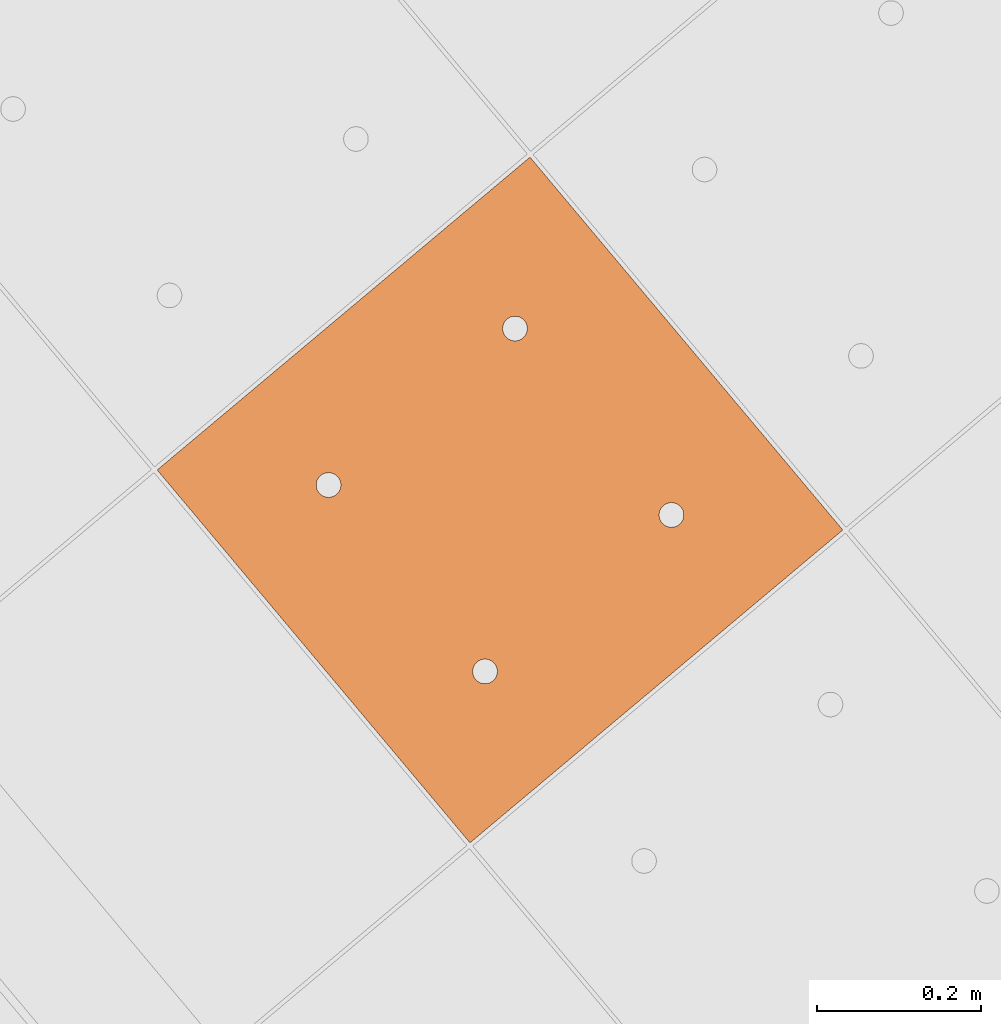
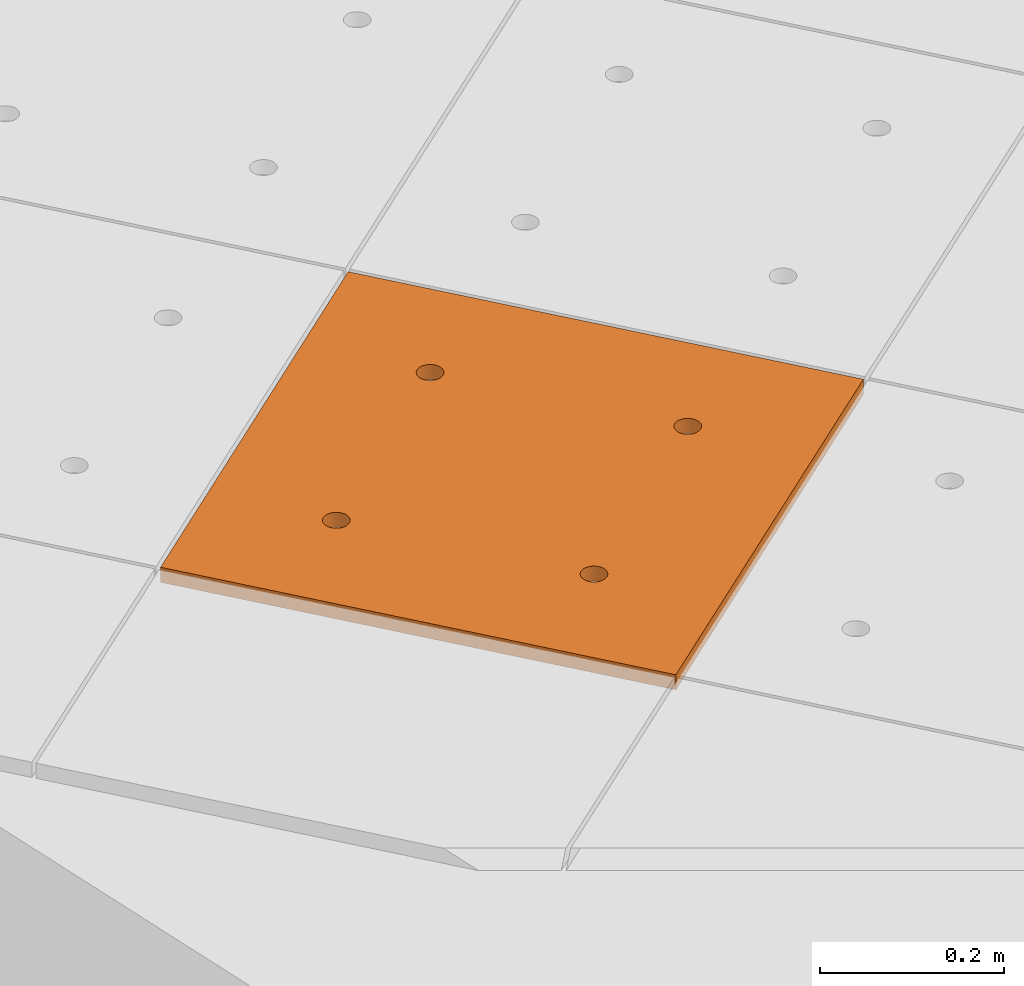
# One storey, part 139 of 338: 1 proxy, 1 element without a shape of its own.
"""IFC2X3 building model written with IfcOpenShell, lengths in millimetres."""

from ifc_helpers import new_model, entity, si_unit, converted_unit, derived_unit, money_unit, direction, frame, origin_with_axes, place, context, subcontext, project, spatial, faceted_brep, source, transform, mapped, material, type_object, type_shapes, element, aggregate, save


model = new_model("IFC2X3")

# Units and contexts
model_context = context("Model", 3, precision=0.01, world=origin_with_axes(), true_north=direction((0.0, 1.0)))
plan_context = context("Plan", 3, precision=0.01, world=origin_with_axes(), true_north=direction((0.0, 1.0)))
body_context = subcontext(model_context, "Body", "Model", "MODEL_VIEW")
ifc_project = project(units=[si_unit("LENGTHUNIT", "METRE", prefix="MILLI"), si_unit("AREAUNIT", "SQUARE_METRE"), si_unit("VOLUMEUNIT", "CUBIC_METRE"), converted_unit("PLANEANGLEUNIT", "DEGREE", entity("IfcPlaneAngleMeasure", 0.0174532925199), si_unit("PLANEANGLEUNIT", "RADIAN"), dimensions=[0, 0, 0, 0, 0, 0, 0]), money_unit("EUR"), converted_unit("TIMEUNIT", "Year", entity("IfcTimeMeasure", 31556926.0), si_unit("TIMEUNIT", "SECOND"), dimensions=[0, 0, 1, 0, 0, 0, 0]), si_unit("MASSUNIT", "GRAM", prefix="KILO"), si_unit("THERMODYNAMICTEMPERATUREUNIT", "DEGREE_CELSIUS"), si_unit("LUMINOUSINTENSITYUNIT", "LUMEN"), si_unit("ENERGYUNIT", "JOULE", prefix="MEGA"), derived_unit("THERMALCONDUCTANCEUNIT", [(si_unit("POWERUNIT", "WATT"), 1), (si_unit("LENGTHUNIT", "METRE"), -1), (si_unit("THERMODYNAMICTEMPERATUREUNIT", "KELVIN"), -1)]), derived_unit("SPECIFICHEATCAPACITYUNIT", [(si_unit("ENERGYUNIT", "JOULE"), 1), (si_unit("MASSUNIT", "GRAM", prefix="KILO"), -1), (si_unit("THERMODYNAMICTEMPERATUREUNIT", "KELVIN"), -1)]), derived_unit("MASSDENSITYUNIT", [(si_unit("MASSUNIT", "GRAM", prefix="KILO"), 1), (si_unit("VOLUMEUNIT", "CUBIC_METRE"), -1)])], contexts=[model_context, plan_context])

# Site, building, storey
site_placement = place(None, origin_with_axes())
site = spatial("IfcSite", under=ifc_project, at=site_placement, Name="Fortuinstraat Woensdrecht", CompositionType="ELEMENT")
building_placement = place(site_placement, origin_with_axes())
building = spatial("IfcBuilding", under=site, at=building_placement, Name="IKC Fortuna", CompositionType="ELEMENT")
storey_placement = place(building_placement, origin_with_axes())
storey = spatial("IfcBuildingStorey", under=building, at=storey_placement, Name="00 begane grond", CompositionType="ELEMENT", Elevation=0.0)

# Covering, proxy
covering_type = type_object("IfcCoveringType", Name="Curtain Wall Type", PredefinedType="CEILING")
covering_placement = place(storey_placement, frame((9775.85169731, -1002.28242867, 4660.0), z_axis=(0.0, 0.0, 1.0), x_axis=(1.0, 0.0, 0.0)))
covering = element("IfcCovering", 1, at=covering_placement, inside=storey, type_object=covering_type, Name="45_Plafondafwerking_P01", PredefinedType="CEILING")
ifc_material = material(Name="Gipsplaat")
building_element_proxy_type = type_object("IfcBuildingElementProxyType", Name="Main Panel 600 x 600 x 20", PredefinedType="NOTDEFINED")
shared_shape = source(origin_with_axes(), body_context, "Body", "Brep", [
    faceted_brep([(2.49999999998, 2.49999999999, -10.0), (300.0, 2.49999999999, -10.0), (300.0, 2.49999999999, 10.0), (2.49999999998, 2.49999999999, 10.0), (2.49999999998, 300.0, -10.0), (2.49999999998, 597.5, -10.0), (300.0, 597.5, -10.0), (597.5, 597.5, -10.0), (597.5, 300.0, -10.0), (597.5, 2.49999999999, -10.0), (166.25, 450.06232995, -10.0), (165.79423259, 452.64711538, -10.0), (164.896546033, 455.11348892, -10.0), (163.58421608, 457.38651108, -10.0), (161.897117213, 459.39711721, -10.0), (159.886511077, 461.08421608, -10.0), (157.613488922, 462.39654603, -10.0), (155.147115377, 463.29423259, -10.0), (152.562329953, 463.75, -10.0), (149.937670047, 463.75, -10.0), (147.352884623, 463.29423259, -10.0), (144.886511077, 462.39654603, -10.0), (142.613488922, 461.08421608, -10.0), (140.602882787, 459.39711721, -10.0), (138.91578392, 457.38651108, -10.0), (137.603453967, 455.11348892, -10.0), (136.705767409, 452.64711538, -10.0), (136.25, 450.06232995, -10.0), (136.25, 448.75, -10.0), (136.25, 447.43767005, -10.0), (136.705767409, 444.85288462, -10.0), (137.603453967, 442.38651108, -10.0), (138.91578392, 440.11348892, -10.0), (140.602882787, 438.10288279, -10.0), (142.613488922, 436.41578392, -10.0), (144.886511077, 435.10345397, -10.0), (147.352884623, 434.20576741, -10.0), (149.937670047, 433.75, -10.0), (152.562329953, 433.75, -10.0), (155.147115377, 434.20576741, -10.0), (157.613488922, 435.10345397, -10.0), (159.886511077, 436.41578392, -10.0), (161.897117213, 438.10288279, -10.0), (163.58421608, 440.11348892, -10.0), (164.896546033, 442.38651108, -10.0), (165.79423259, 444.85288462, -10.0), (166.25, 447.43767005, -10.0), (463.75, 450.06232995, -10.0), (463.29423259, 452.64711538, -10.0), (462.396546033, 455.11348892, -10.0), (461.08421608, 457.38651108, -10.0), (459.397117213, 459.39711721, -10.0), (457.386511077, 461.08421608, -10.0), (455.113488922, 462.39654603, -10.0), (452.647115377, 463.29423259, -10.0), (450.062329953, 463.75, -10.0), (447.437670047, 463.75, -10.0), (444.852884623, 463.29423259, -10.0), (442.386511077, 462.39654603, -10.0), (440.113488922, 461.08421608, -10.0), (438.102882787, 459.39711721, -10.0), (436.41578392, 457.38651108, -10.0), (435.103453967, 455.11348892, -10.0), (434.205767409, 452.64711538, -10.0), (433.75, 450.06232995, -10.0), (433.75, 448.75, -10.0), (433.75, 447.43767005, -10.0), (434.205767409, 444.85288462, -10.0), (435.103453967, 442.38651108, -10.0), (436.41578392, 440.11348892, -10.0), (438.102882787, 438.10288279, -10.0), (440.113488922, 436.41578392, -10.0), (442.386511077, 435.10345397, -10.0), (444.852884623, 434.20576741, -10.0), (447.437670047, 433.75, -10.0), (450.062329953, 433.75, -10.0), (452.647115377, 434.20576741, -10.0), (455.113488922, 435.10345397, -10.0), (457.386511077, 436.41578392, -10.0), (459.397117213, 438.10288279, -10.0), (461.08421608, 440.11348892, -10.0), (462.396546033, 442.38651108, -10.0), (463.29423259, 444.85288462, -10.0), (463.75, 447.43767005, -10.0), (463.75, 152.56232995, -10.0), (463.29423259, 155.14711538, -10.0), (462.396546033, 157.61348892, -10.0), (461.08421608, 159.88651108, -10.0), (459.397117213, 161.89711721, -10.0), (457.386511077, 163.58421608, -10.0), (455.113488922, 164.89654603, -10.0), (452.647115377, 165.79423259, -10.0), (450.062329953, 166.25, -10.0), (447.437670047, 166.25, -10.0), (444.852884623, 165.79423259, -10.0), (442.386511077, 164.89654603, -10.0), (440.113488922, 163.58421608, -10.0), (438.102882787, 161.89711721, -10.0), (436.41578392, 159.88651108, -10.0), (435.103453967, 157.61348892, -10.0), (434.205767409, 155.14711538, -10.0), (433.75, 152.56232995, -10.0), (433.75, 151.25, -10.0), (433.75, 149.93767005, -10.0), (434.205767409, 147.35288462, -10.0), (435.103453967, 144.88651108, -10.0), (436.41578392, 142.61348892, -10.0), (438.102882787, 140.60288279, -10.0), (440.113488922, 138.91578392, -10.0), (442.386511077, 137.60345397, -10.0), (444.852884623, 136.70576741, -10.0), (447.437670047, 136.25, -10.0), (450.062329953, 136.25, -10.0), (452.647115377, 136.70576741, -10.0), (455.113488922, 137.60345397, -10.0), (457.386511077, 138.91578392, -10.0), (459.397117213, 140.60288279, -10.0), (461.08421608, 142.61348892, -10.0), (462.396546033, 144.88651108, -10.0), (463.29423259, 147.35288462, -10.0), (463.75, 149.93767005, -10.0), (166.25, 152.56232995, -10.0), (165.79423259, 155.14711538, -10.0), (164.896546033, 157.61348892, -10.0), (163.58421608, 159.88651108, -10.0), (161.897117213, 161.89711721, -10.0), (159.886511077, 163.58421608, -10.0), (157.613488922, 164.89654603, -10.0), (155.147115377, 165.79423259, -10.0), (152.562329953, 166.25, -10.0), (149.937670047, 166.25, -10.0), (147.352884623, 165.79423259, -10.0), (144.886511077, 164.89654603, -10.0), (142.613488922, 163.58421608, -10.0), (140.602882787, 161.89711721, -10.0), (138.91578392, 159.88651108, -10.0), (137.603453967, 157.61348892, -10.0), (136.705767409, 155.14711538, -10.0), (136.25, 152.56232995, -10.0), (136.25, 151.25, -10.0), (136.25, 149.93767005, -10.0), (136.705767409, 147.35288462, -10.0), (137.603453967, 144.88651108, -10.0), (138.91578392, 142.61348892, -10.0), (140.602882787, 140.60288279, -10.0), (142.613488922, 138.91578392, -10.0), (144.886511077, 137.60345397, -10.0), (147.352884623, 136.70576741, -10.0), (149.937670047, 136.25, -10.0), (152.562329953, 136.25, -10.0), (155.147115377, 136.70576741, -10.0), (157.613488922, 137.60345397, -10.0), (159.886511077, 138.91578392, -10.0), (161.897117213, 140.60288279, -10.0), (163.58421608, 142.61348892, -10.0), (164.896546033, 144.88651108, -10.0), (165.79423259, 147.35288462, -10.0), (166.25, 149.93767005, -10.0), (597.5, 2.49999999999, 10.0), (597.5, 300.0, 10.0), (597.5, 597.5, 10.0), (300.0, 597.5, 10.0), (2.49999999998, 597.5, 10.0), (2.49999999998, 300.0, 10.0), (166.25, 450.06232995, 10.0), (166.25, 447.43767005, 10.0), (165.79423259, 444.85288462, 10.0), (164.896546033, 442.38651108, 10.0), (163.58421608, 440.11348892, 10.0), (161.897117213, 438.10288279, 10.0), (159.886511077, 436.41578392, 10.0), (157.613488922, 435.10345397, 10.0), (155.147115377, 434.20576741, 10.0), (152.562329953, 433.75, 10.0), (149.937670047, 433.75, 10.0), (147.352884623, 434.20576741, 10.0), (144.886511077, 435.10345397, 10.0), (142.613488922, 436.41578392, 10.0), (140.602882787, 438.10288279, 10.0), (138.91578392, 440.11348892, 10.0), (137.603453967, 442.38651108, 10.0), (136.705767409, 444.85288462, 10.0), (136.25, 447.43767005, 10.0), (136.25, 448.75, 10.0), (136.25, 450.06232995, 10.0), (136.705767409, 452.64711538, 10.0), (137.603453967, 455.11348892, 10.0), (138.91578392, 457.38651108, 10.0), (140.602882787, 459.39711721, 10.0), (142.613488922, 461.08421608, 10.0), (144.886511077, 462.39654603, 10.0), (147.352884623, 463.29423259, 10.0), (149.937670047, 463.75, 10.0), (152.562329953, 463.75, 10.0), (155.147115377, 463.29423259, 10.0), (157.613488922, 462.39654603, 10.0), (159.886511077, 461.08421608, 10.0), (161.897117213, 459.39711721, 10.0), (163.58421608, 457.38651108, 10.0), (164.896546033, 455.11348892, 10.0), (165.79423259, 452.64711538, 10.0), (463.75, 450.06232995, 10.0), (463.75, 447.43767005, 10.0), (463.29423259, 444.85288462, 10.0), (462.396546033, 442.38651108, 10.0), (461.08421608, 440.11348892, 10.0), (459.397117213, 438.10288279, 10.0), (457.386511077, 436.41578392, 10.0), (455.113488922, 435.10345397, 10.0), (452.647115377, 434.20576741, 10.0), (450.062329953, 433.75, 10.0), (447.437670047, 433.75, 10.0), (444.852884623, 434.20576741, 10.0), (442.386511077, 435.10345397, 10.0), (440.113488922, 436.41578392, 10.0), (438.102882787, 438.10288279, 10.0), (436.41578392, 440.11348892, 10.0), (435.103453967, 442.38651108, 10.0), (434.205767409, 444.85288462, 10.0), (433.75, 447.43767005, 10.0), (433.75, 448.75, 10.0), (433.75, 450.06232995, 10.0), (434.205767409, 452.64711538, 10.0), (435.103453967, 455.11348892, 10.0), (436.41578392, 457.38651108, 10.0), (438.102882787, 459.39711721, 10.0), (440.113488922, 461.08421608, 10.0), (442.386511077, 462.39654603, 10.0), (444.852884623, 463.29423259, 10.0), (447.437670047, 463.75, 10.0), (450.062329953, 463.75, 10.0), (452.647115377, 463.29423259, 10.0), (455.113488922, 462.39654603, 10.0), (457.386511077, 461.08421608, 10.0), (459.397117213, 459.39711721, 10.0), (461.08421608, 457.38651108, 10.0), (462.396546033, 455.11348892, 10.0), (463.29423259, 452.64711538, 10.0), (463.75, 152.56232995, 10.0), (463.75, 149.93767005, 10.0), (463.29423259, 147.35288462, 10.0), (462.396546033, 144.88651108, 10.0), (461.08421608, 142.61348892, 10.0), (459.397117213, 140.60288279, 10.0), (457.386511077, 138.91578392, 10.0), (455.113488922, 137.60345397, 10.0), (452.647115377, 136.70576741, 10.0), (450.062329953, 136.25, 10.0), (447.437670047, 136.25, 10.0), (444.852884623, 136.70576741, 10.0), (442.386511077, 137.60345397, 10.0), (440.113488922, 138.91578392, 10.0), (438.102882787, 140.60288279, 10.0), (436.41578392, 142.61348892, 10.0), (435.103453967, 144.88651108, 10.0), (434.205767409, 147.35288462, 10.0), (433.75, 149.93767005, 10.0), (433.75, 151.25, 10.0), (433.75, 152.56232995, 10.0), (434.205767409, 155.14711538, 10.0), (435.103453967, 157.61348892, 10.0), (436.41578392, 159.88651108, 10.0), (438.102882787, 161.89711721, 10.0), (440.113488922, 163.58421608, 10.0), (442.386511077, 164.89654603, 10.0), (444.852884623, 165.79423259, 10.0), (447.437670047, 166.25, 10.0), (450.062329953, 166.25, 10.0), (452.647115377, 165.79423259, 10.0), (455.113488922, 164.89654603, 10.0), (457.386511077, 163.58421608, 10.0), (459.397117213, 161.89711721, 10.0), (461.08421608, 159.88651108, 10.0), (462.396546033, 157.61348892, 10.0), (463.29423259, 155.14711538, 10.0), (166.25, 152.56232995, 10.0), (166.25, 149.93767005, 10.0), (165.79423259, 147.35288462, 10.0), (164.896546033, 144.88651108, 10.0), (163.58421608, 142.61348892, 10.0), (161.897117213, 140.60288279, 10.0), (159.886511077, 138.91578392, 10.0), (157.613488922, 137.60345397, 10.0), (155.147115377, 136.70576741, 10.0), (152.562329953, 136.25, 10.0), (149.937670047, 136.25, 10.0), (147.352884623, 136.70576741, 10.0), (144.886511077, 137.60345397, 10.0), (142.613488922, 138.91578392, 10.0), (140.602882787, 140.60288279, 10.0), (138.91578392, 142.61348892, 10.0), (137.603453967, 144.88651108, 10.0), (136.705767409, 147.35288462, 10.0), (136.25, 149.93767005, 10.0), (136.25, 151.25, 10.0), (136.25, 152.56232995, 10.0), (136.705767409, 155.14711538, 10.0), (137.603453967, 157.61348892, 10.0), (138.91578392, 159.88651108, 10.0), (140.602882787, 161.89711721, 10.0), (142.613488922, 163.58421608, 10.0), (144.886511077, 164.89654603, 10.0), (147.352884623, 165.79423259, 10.0), (149.937670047, 166.25, 10.0), (152.562329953, 166.25, 10.0), (155.147115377, 165.79423259, 10.0), (157.613488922, 164.89654603, 10.0), (159.886511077, 163.58421608, 10.0), (161.897117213, 161.89711721, 10.0), (163.58421608, 159.88651108, 10.0), (164.896546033, 157.61348892, 10.0), (165.79423259, 155.14711538, 10.0)], [[[0, 1, 2, 3]], [[0, 4, 5, 6, 7, 8, 9, 1], [10, 11, 12, 13, 14, 15, 16, 17, 18, 19, 20, 21, 22, 23, 24, 25, 26, 27, 28, 29, 30, 31, 32, 33, 34, 35, 36, 37, 38, 39, 40, 41, 42, 43, 44, 45, 46], [47, 48, 49, 50, 51, 52, 53, 54, 55, 56, 57, 58, 59, 60, 61, 62, 63, 64, 65, 66, 67, 68, 69, 70, 71, 72, 73, 74, 75, 76, 77, 78, 79, 80, 81, 82, 83], [84, 85, 86, 87, 88, 89, 90, 91, 92, 93, 94, 95, 96, 97, 98, 99, 100, 101, 102, 103, 104, 105, 106, 107, 108, 109, 110, 111, 112, 113, 114, 115, 116, 117, 118, 119, 120], [121, 122, 123, 124, 125, 126, 127, 128, 129, 130, 131, 132, 133, 134, 135, 136, 137, 138, 139, 140, 141, 142, 143, 144, 145, 146, 147, 148, 149, 150, 151, 152, 153, 154, 155, 156, 157]], [[1, 9, 158, 2]], [[3, 2, 158, 159, 160, 161, 162, 163], [164, 165, 166, 167, 168, 169, 170, 171, 172, 173, 174, 175, 176, 177, 178, 179, 180, 181, 182, 183, 184, 185, 186, 187, 188, 189, 190, 191, 192, 193, 194, 195, 196, 197, 198, 199, 200], [201, 202, 203, 204, 205, 206, 207, 208, 209, 210, 211, 212, 213, 214, 215, 216, 217, 218, 219, 220, 221, 222, 223, 224, 225, 226, 227, 228, 229, 230, 231, 232, 233, 234, 235, 236, 237], [238, 239, 240, 241, 242, 243, 244, 245, 246, 247, 248, 249, 250, 251, 252, 253, 254, 255, 256, 257, 258, 259, 260, 261, 262, 263, 264, 265, 266, 267, 268, 269, 270, 271, 272, 273, 274], [275, 276, 277, 278, 279, 280, 281, 282, 283, 284, 285, 286, 287, 288, 289, 290, 291, 292, 293, 294, 295, 296, 297, 298, 299, 300, 301, 302, 303, 304, 305, 306, 307, 308, 309, 310, 311]], [[4, 0, 3, 163]], [[5, 4, 163, 162]], [[6, 5, 162, 161]], [[7, 6, 161, 160]], [[8, 7, 160, 159]], [[9, 8, 159, 158]], [[11, 10, 164, 200]], [[12, 11, 200, 199]], [[13, 12, 199, 198]], [[14, 13, 198, 197]], [[15, 14, 197, 196]], [[16, 15, 196, 195]], [[17, 16, 195, 194]], [[18, 17, 194, 193]], [[19, 18, 193, 192]], [[20, 19, 192, 191]], [[21, 20, 191, 190]], [[22, 21, 190, 189]], [[23, 22, 189, 188]], [[24, 23, 188, 187]], [[25, 24, 187, 186]], [[26, 25, 186, 185]], [[27, 26, 185, 184]], [[28, 27, 184, 183]], [[29, 28, 183, 182]], [[30, 29, 182, 181]], [[31, 30, 181, 180]], [[32, 31, 180, 179]], [[33, 32, 179, 178]], [[34, 33, 178, 177]], [[35, 34, 177, 176]], [[36, 35, 176, 175]], [[37, 36, 175, 174]], [[38, 37, 174, 173]], [[39, 38, 173, 172]], [[40, 39, 172, 171]], [[41, 40, 171, 170]], [[42, 41, 170, 169]], [[43, 42, 169, 168]], [[44, 43, 168, 167]], [[45, 44, 167, 166]], [[46, 45, 166, 165]], [[10, 46, 165, 164]], [[48, 47, 201, 237]], [[49, 48, 237, 236]], [[50, 49, 236, 235]], [[51, 50, 235, 234]], [[52, 51, 234, 233]], [[53, 52, 233, 232]], [[54, 53, 232, 231]], [[55, 54, 231, 230]], [[56, 55, 230, 229]], [[57, 56, 229, 228]], [[58, 57, 228, 227]], [[59, 58, 227, 226]], [[60, 59, 226, 225]], [[61, 60, 225, 224]], [[62, 61, 224, 223]], [[63, 62, 223, 222]], [[64, 63, 222, 221]], [[65, 64, 221, 220]], [[66, 65, 220, 219]], [[67, 66, 219, 218]], [[68, 67, 218, 217]], [[69, 68, 217, 216]], [[70, 69, 216, 215]], [[71, 70, 215, 214]], [[72, 71, 214, 213]], [[73, 72, 213, 212]], [[74, 73, 212, 211]], [[75, 74, 211, 210]], [[76, 75, 210, 209]], [[77, 76, 209, 208]], [[78, 77, 208, 207]], [[79, 78, 207, 206]], [[80, 79, 206, 205]], [[81, 80, 205, 204]], [[82, 81, 204, 203]], [[83, 82, 203, 202]], [[47, 83, 202, 201]], [[85, 84, 238, 274]], [[86, 85, 274, 273]], [[87, 86, 273, 272]], [[88, 87, 272, 271]], [[89, 88, 271, 270]], [[90, 89, 270, 269]], [[91, 90, 269, 268]], [[92, 91, 268, 267]], [[93, 92, 267, 266]], [[94, 93, 266, 265]], [[95, 94, 265, 264]], [[96, 95, 264, 263]], [[97, 96, 263, 262]], [[98, 97, 262, 261]], [[99, 98, 261, 260]], [[100, 99, 260, 259]], [[101, 100, 259, 258]], [[102, 101, 258, 257]], [[103, 102, 257, 256]], [[104, 103, 256, 255]], [[105, 104, 255, 254]], [[106, 105, 254, 253]], [[107, 106, 253, 252]], [[108, 107, 252, 251]], [[109, 108, 251, 250]], [[110, 109, 250, 249]], [[111, 110, 249, 248]], [[112, 111, 248, 247]], [[113, 112, 247, 246]], [[114, 113, 246, 245]], [[115, 114, 245, 244]], [[116, 115, 244, 243]], [[117, 116, 243, 242]], [[118, 117, 242, 241]], [[119, 118, 241, 240]], [[120, 119, 240, 239]], [[84, 120, 239, 238]], [[122, 121, 275, 311]], [[123, 122, 311, 310]], [[124, 123, 310, 309]], [[125, 124, 309, 308]], [[126, 125, 308, 307]], [[127, 126, 307, 306]], [[128, 127, 306, 305]], [[129, 128, 305, 304]], [[130, 129, 304, 303]], [[131, 130, 303, 302]], [[132, 131, 302, 301]], [[133, 132, 301, 300]], [[134, 133, 300, 299]], [[135, 134, 299, 298]], [[136, 135, 298, 297]], [[137, 136, 297, 296]], [[138, 137, 296, 295]], [[139, 138, 295, 294]], [[140, 139, 294, 293]], [[141, 140, 293, 292]], [[142, 141, 292, 291]], [[143, 142, 291, 290]], [[144, 143, 290, 289]], [[145, 144, 289, 288]], [[146, 145, 288, 287]], [[147, 146, 287, 286]], [[148, 147, 286, 285]], [[149, 148, 285, 284]], [[150, 149, 284, 283]], [[151, 150, 283, 282]], [[152, 151, 282, 281]], [[153, 152, 281, 280]], [[154, 153, 280, 279]], [[155, 154, 279, 278]], [[156, 155, 278, 277]], [[157, 156, 277, 276]], [[121, 157, 276, 275]]]),
])
type_shapes(building_element_proxy_type, [shared_shape])
proxy_placement = place(covering_placement, frame((-7681.64715395, -179.714264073, 2.16715534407e-10), z_axis=(0.0, 0.0, 1.0), x_axis=(1.0, 0.0, 0.0)))
proxy = element("IfcBuildingElementProxy", 2, at=proxy_placement, type_object=building_element_proxy_type, material=ifc_material, Name="__600x632 Rockfon Krios", context=body_context, shape_type="MappedRepresentation", body=[
    mapped(shared_shape, transform((36.9769427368, 422.649625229, 0.0), x_axis=(-0.766044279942, -0.642787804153, 0.0), y_axis=(0.642787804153, -0.766044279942, 0.0), z_axis=(0.0, 0.0, 1.0))),
])
aggregate(covering, [proxy])

save(model, "model.ifc")
